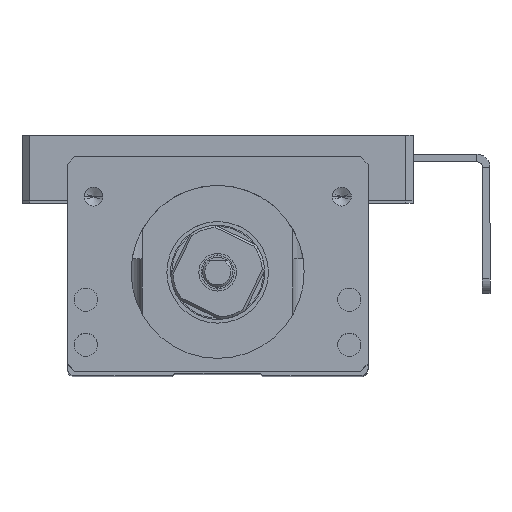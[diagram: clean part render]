
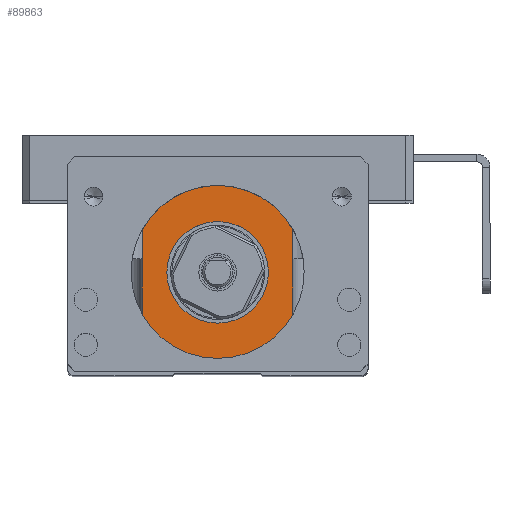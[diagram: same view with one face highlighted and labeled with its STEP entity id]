
A CAD part, top view. The second image highlights one B-rep face of the part: STEP entity #89863.
In plain terms, the highlighted planar face has unit normal (0, 0, 1).
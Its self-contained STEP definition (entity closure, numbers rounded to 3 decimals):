
#1437 = CARTESIAN_POINT ( 'NONE',  ( -6.75, 13.7, 65. ) ) ;
#4516 = VECTOR ( 'NONE', #5653, 1000. ) ;
#5109 = CIRCLE ( 'NONE', #35268, 6.75 ) ;
#5653 = DIRECTION ( 'NONE',  ( 0., -1., 0. ) ) ;
#6206 = LINE ( 'NONE', #49255, #73068 ) ;
#6570 = LINE ( 'NONE', #14524, #4516 ) ;
#6693 = CARTESIAN_POINT ( 'NONE',  ( -13., 0.5, 65. ) ) ;
#9115 = DIRECTION ( 'NONE',  ( -1., 0., 0. ) ) ;
#9766 = EDGE_CURVE ( 'NONE', #57913, #76623, #66160, .T. ) ;
#12339 = DIRECTION ( 'NONE',  ( 0., -1., 0. ) ) ;
#12826 = CARTESIAN_POINT ( 'NONE',  ( 10., 15.5, 65. ) ) ;
#13191 = EDGE_CURVE ( 'NONE', #73681, #57913, #31707, .T. ) ;
#13419 = CARTESIAN_POINT ( 'NONE',  ( 10., 29., 65. ) ) ;
#13685 = DIRECTION ( 'NONE',  ( 0., 1., 0. ) ) ;
#14524 = CARTESIAN_POINT ( 'NONE',  ( -10., 0.5, 65. ) ) ;
#18438 = ORIENTED_EDGE ( 'NONE', *, *, #13191, .T. ) ;
#19356 = LINE ( 'NONE', #47908, #88861 ) ;
#21450 = VERTEX_POINT ( 'NONE', #77984 ) ;
#23754 = FACE_OUTER_BOUND ( 'NONE', #74104, .T. ) ;
#28192 = LINE ( 'NONE', #6693, #88015 ) ;
#29299 = CARTESIAN_POINT ( 'NONE',  ( -10., 0.5, 65. ) ) ;
#30917 = CARTESIAN_POINT ( 'NONE',  ( 0., 13.7, 65. ) ) ;
#30959 = VECTOR ( 'NONE', #9115, 1000. ) ;
#31104 = EDGE_LOOP ( 'NONE', ( #46410, #39718 ) ) ;
#31707 = LINE ( 'NONE', #81773, #71756 ) ;
#34019 = CARTESIAN_POINT ( 'NONE',  ( 0., 13.7, 65. ) ) ;
#34247 = EDGE_CURVE ( 'NONE', #70867, #78116, #5109, .T. ) ;
#35268 = AXIS2_PLACEMENT_3D ( 'NONE', #30917, #66473, #87981 ) ;
#35858 = CARTESIAN_POINT ( 'NONE',  ( -10., 29., 65. ) ) ;
#36760 = AXIS2_PLACEMENT_3D ( 'NONE', #54142, #88312, #74758 ) ;
#37688 = CIRCLE ( 'NONE', #57080, 6.75 ) ;
#38794 = VERTEX_POINT ( 'NONE', #63383 ) ;
#39718 = ORIENTED_EDGE ( 'NONE', *, *, #34247, .F. ) ;
#41216 = EDGE_CURVE ( 'NONE', #76623, #38794, #19356, .T. ) ;
#46274 = EDGE_CURVE ( 'NONE', #21450, #62837, #28192, .T. ) ;
#46410 = ORIENTED_EDGE ( 'NONE', *, *, #48287, .F. ) ;
#47908 = CARTESIAN_POINT ( 'NONE',  ( -10., 0.5, 65. ) ) ;
#48287 = EDGE_CURVE ( 'NONE', #78116, #70867, #37688, .T. ) ;
#49255 = CARTESIAN_POINT ( 'NONE',  ( 10., 29., 65. ) ) ;
#52300 = PLANE ( 'NONE',  #36760 ) ;
#53354 = EDGE_CURVE ( 'NONE', #38794, #62837, #6570, .T. ) ;
#54142 = CARTESIAN_POINT ( 'NONE',  ( -13., 0.5, 65. ) ) ;
#54611 = DIRECTION ( 'NONE',  ( 0., 0., 1. ) ) ;
#55431 = CARTESIAN_POINT ( 'NONE',  ( 6.75, 13.7, 65. ) ) ;
#57080 = AXIS2_PLACEMENT_3D ( 'NONE', #34019, #54611, #62538 ) ;
#57913 = VERTEX_POINT ( 'NONE', #13419 ) ;
#60761 = ORIENTED_EDGE ( 'NONE', *, *, #53354, .T. ) ;
#62538 = DIRECTION ( 'NONE',  ( 1., 0., 0. ) ) ;
#62837 = VERTEX_POINT ( 'NONE', #29299 ) ;
#63383 = CARTESIAN_POINT ( 'NONE',  ( -10., 15.5, 65. ) ) ;
#64122 = ORIENTED_EDGE ( 'NONE', *, *, #9766, .T. ) ;
#65031 = ORIENTED_EDGE ( 'NONE', *, *, #92408, .T. ) ;
#66160 = LINE ( 'NONE', #79759, #30959 ) ;
#66473 = DIRECTION ( 'NONE',  ( 0., 0., 1. ) ) ;
#70867 = VERTEX_POINT ( 'NONE', #1437 ) ;
#71756 = VECTOR ( 'NONE', #86925, 1000. ) ;
#73068 = VECTOR ( 'NONE', #13685, 1000. ) ;
#73681 = VERTEX_POINT ( 'NONE', #12826 ) ;
#74104 = EDGE_LOOP ( 'NONE', ( #64122, #90512, #60761, #83087, #65031, #18438 ) ) ;
#74758 = DIRECTION ( 'NONE',  ( -1., 0., 0. ) ) ;
#76623 = VERTEX_POINT ( 'NONE', #35858 ) ;
#77984 = CARTESIAN_POINT ( 'NONE',  ( 10., 0.5, 65. ) ) ;
#78116 = VERTEX_POINT ( 'NONE', #55431 ) ;
#79759 = CARTESIAN_POINT ( 'NONE',  ( -13., 29., 65. ) ) ;
#81773 = CARTESIAN_POINT ( 'NONE',  ( 10., 29., 65. ) ) ;
#83087 = ORIENTED_EDGE ( 'NONE', *, *, #46274, .F. ) ;
#85747 = DIRECTION ( 'NONE',  ( -1., 0., 0. ) ) ;
#86925 = DIRECTION ( 'NONE',  ( 0., 1., 0. ) ) ;
#87844 = FACE_BOUND ( 'NONE', #31104, .T. ) ;
#87981 = DIRECTION ( 'NONE',  ( 1., 0., 0. ) ) ;
#88015 = VECTOR ( 'NONE', #85747, 1000. ) ;
#88312 = DIRECTION ( 'NONE',  ( 0., 0., -1. ) ) ;
#88861 = VECTOR ( 'NONE', #12339, 1000. ) ;
#89863 = ADVANCED_FACE ( 'NONE', ( #87844, #23754 ), #52300, .F. ) ;
#90512 = ORIENTED_EDGE ( 'NONE', *, *, #41216, .T. ) ;
#92408 = EDGE_CURVE ( 'NONE', #21450, #73681, #6206, .T. ) ;
